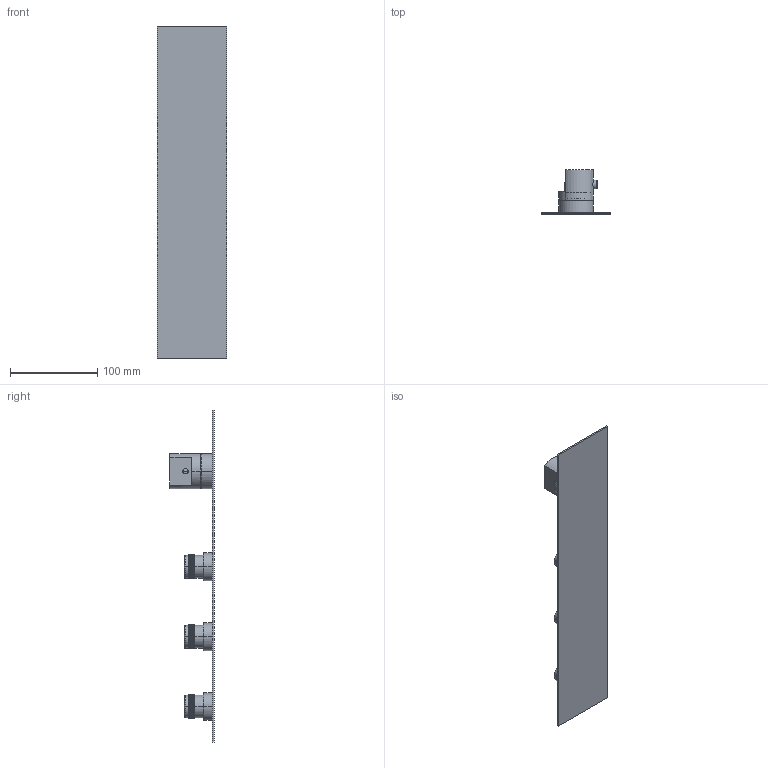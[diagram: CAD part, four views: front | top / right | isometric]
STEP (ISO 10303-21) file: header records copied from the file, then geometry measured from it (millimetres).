
FILE_DESCRIPTION((''),'2;1');
FILE_NAME('89600V321_SW0001','2025-11-24T17:10:50',('carloff'),(''),'CREO PARAMETRIC BY PTC INC, 2022014','CREO PARAMETRIC BY PTC INC, 2022014','');
FILE_SCHEMA(('CONFIG_CONTROL_DESIGN'));
Products named in the file (1): 89600V321_SW0001
Bounding box: 80 x 50.8 x 380 mm (x, y, z)
Volume: 153556.2 mm3; surface area: 85335.3 mm2
Topology: 2 solids, 2 shells, 5013 faces, 12473 edges, 8236 vertices
Faces by surface type: bspline 3840, cylinder 1085, plane 46, torus 20, cone 14, sphere 8
Entity records: 211952 total; most frequent: CARTESIAN_POINT 118823, ORIENTED_EDGE 24926, EDGE_CURVE 12463, VERTEX_POINT 8236, B_SPLINE_CURVE_WITH_KNOTS 7800, DIRECTION 7537, EDGE_LOOP 5797, FACE_OUTER_BOUND 5013
